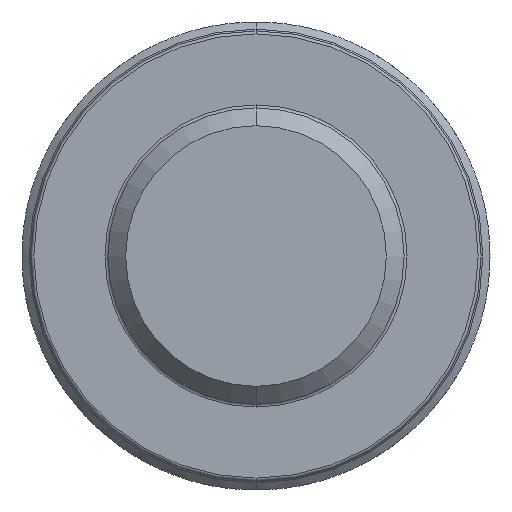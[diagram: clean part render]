
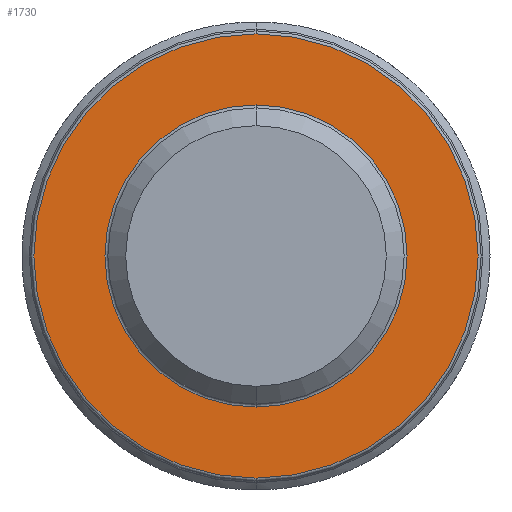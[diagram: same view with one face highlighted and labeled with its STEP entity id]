
A CAD part, front view. The second image highlights one B-rep face of the part: STEP entity #1730.
In plain terms, the highlighted planar face has unit normal (0, -1, 0).
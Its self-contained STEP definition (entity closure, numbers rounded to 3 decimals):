
#47 = ORIENTED_EDGE ( 'NONE', *, *, #6177, .T. ) ;
#899 = CARTESIAN_POINT ( 'NONE',  ( 0., -10., 5.1 ) ) ;
#950 = DIRECTION ( 'NONE',  ( 0., 1., 0. ) ) ;
#1127 = EDGE_LOOP ( 'NONE', ( #1176, #5544 ) ) ;
#1176 = ORIENTED_EDGE ( 'NONE', *, *, #2175, .T. ) ;
#1426 = VERTEX_POINT ( 'NONE', #7299 ) ;
#1730 = ADVANCED_FACE ( 'NONE', ( #7943, #5919 ), #7182, .T. ) ;
#1747 = CIRCLE ( 'NONE', #5787, 5.1 ) ;
#2019 = DIRECTION ( 'NONE',  ( 0., 0., -1. ) ) ;
#2175 = EDGE_CURVE ( 'NONE', #2369, #2503, #1747, .T. ) ;
#2321 = DIRECTION ( 'NONE',  ( 0., 0., -1. ) ) ;
#2365 = EDGE_LOOP ( 'NONE', ( #6891, #47 ) ) ;
#2369 = VERTEX_POINT ( 'NONE', #6484 ) ;
#2503 = VERTEX_POINT ( 'NONE', #899 ) ;
#2822 = DIRECTION ( 'NONE',  ( 0., 0., -1. ) ) ;
#3030 = CIRCLE ( 'NONE', #4103, 7.5 ) ;
#3284 = DIRECTION ( 'NONE',  ( 0., 1., 0. ) ) ;
#3297 = DIRECTION ( 'NONE',  ( 0., 0., -1. ) ) ;
#3441 = EDGE_CURVE ( 'NONE', #2503, #2369, #5099, .T. ) ;
#3678 = VERTEX_POINT ( 'NONE', #5094 ) ;
#3791 = AXIS2_PLACEMENT_3D ( 'NONE', #3971, #6586, #3297 ) ;
#3971 = CARTESIAN_POINT ( 'NONE',  ( 5., -10., 0. ) ) ;
#4103 = AXIS2_PLACEMENT_3D ( 'NONE', #4253, #6789, #2321 ) ;
#4123 = CARTESIAN_POINT ( 'NONE',  ( 0., -10., 0. ) ) ;
#4253 = CARTESIAN_POINT ( 'NONE',  ( 0., -10., 0. ) ) ;
#4554 = AXIS2_PLACEMENT_3D ( 'NONE', #7760, #3284, #2019 ) ;
#5094 = CARTESIAN_POINT ( 'NONE',  ( 0., -10., -7.5 ) ) ;
#5099 = CIRCLE ( 'NONE', #4554, 5.1 ) ;
#5271 = DIRECTION ( 'NONE',  ( 0., -1., 0. ) ) ;
#5544 = ORIENTED_EDGE ( 'NONE', *, *, #3441, .T. ) ;
#5787 = AXIS2_PLACEMENT_3D ( 'NONE', #4123, #950, #2822 ) ;
#5919 = FACE_OUTER_BOUND ( 'NONE', #2365, .T. ) ;
#5995 = CIRCLE ( 'NONE', #8024, 7.5 ) ;
#6177 = EDGE_CURVE ( 'NONE', #1426, #3678, #5995, .T. ) ;
#6374 = EDGE_CURVE ( 'NONE', #3678, #1426, #3030, .T. ) ;
#6484 = CARTESIAN_POINT ( 'NONE',  ( 0., -10., -5.1 ) ) ;
#6586 = DIRECTION ( 'NONE',  ( 0., -1., 0. ) ) ;
#6789 = DIRECTION ( 'NONE',  ( 0., -1., 0. ) ) ;
#6891 = ORIENTED_EDGE ( 'NONE', *, *, #6374, .T. ) ;
#7182 = PLANE ( 'NONE',  #3791 ) ;
#7299 = CARTESIAN_POINT ( 'NONE',  ( 0., -10., 7.5 ) ) ;
#7760 = CARTESIAN_POINT ( 'NONE',  ( 0., -10., 0. ) ) ;
#7771 = CARTESIAN_POINT ( 'NONE',  ( 0., -10., 0. ) ) ;
#7894 = DIRECTION ( 'NONE',  ( 0., 0., -1. ) ) ;
#7943 = FACE_BOUND ( 'NONE', #1127, .T. ) ;
#8024 = AXIS2_PLACEMENT_3D ( 'NONE', #7771, #5271, #7894 ) ;
